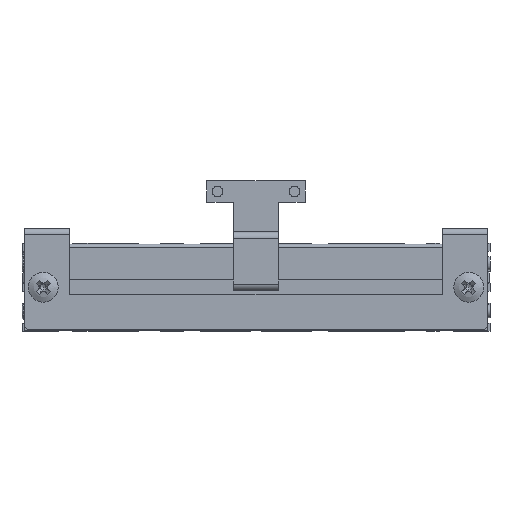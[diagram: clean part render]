
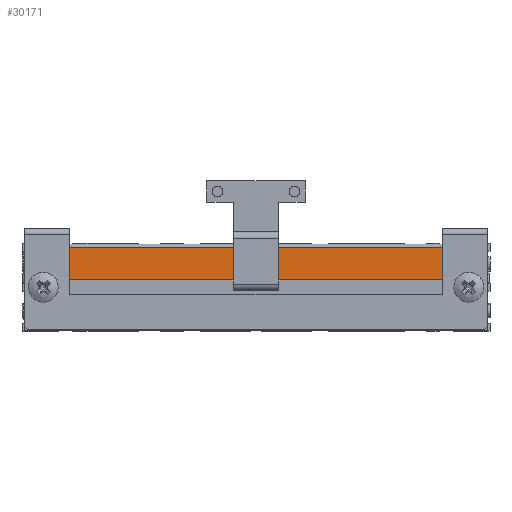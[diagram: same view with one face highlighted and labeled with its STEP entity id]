
A CAD part, front view. The second image highlights one B-rep face of the part: STEP entity #30171.
In plain terms, the highlighted planar face has unit normal (0, -1, 0).
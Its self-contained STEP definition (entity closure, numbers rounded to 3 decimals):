
#6949 = CYLINDRICAL_SURFACE('',#6950,0.6);
#6950 = AXIS2_PLACEMENT_3D('',#6951,#6952,#6953);
#6951 = CARTESIAN_POINT('',(-43.,-2.9,-3.5));
#6952 = DIRECTION('',(1.,0.,0.));
#6953 = DIRECTION('',(0.,-1.,0.));
#21357 = VERTEX_POINT('',#21358);
#21358 = CARTESIAN_POINT('',(35.,-3.5,-3.5));
#21378 = EDGE_CURVE('',#21357,#21379,#21381,.T.);
#21379 = VERTEX_POINT('',#21380);
#21380 = CARTESIAN_POINT('',(-35.,-3.5,-3.5));
#21381 = SURFACE_CURVE('',#21382,(#21386,#21392),.PCURVE_S1.);
#21382 = LINE('',#21383,#21384);
#21383 = CARTESIAN_POINT('',(43.,-3.5,-3.5));
#21384 = VECTOR('',#21385,1.);
#21385 = DIRECTION('',(-1.,0.,0.));
#21386 = PCURVE('',#6949,#21387);
#21387 = DEFINITIONAL_REPRESENTATION('',(#21388),#21391);
#21388 = B_SPLINE_CURVE_WITH_KNOTS('',1,(#21389,#21390),.UNSPECIFIED.,
  .F.,.F.,(2,2),(0.,86.),.PIECEWISE_BEZIER_KNOTS.);
#21389 = CARTESIAN_POINT('',(0.,86.));
#21390 = CARTESIAN_POINT('',(0.,0.));
#21391 = ( GEOMETRIC_REPRESENTATION_CONTEXT(2) 
PARAMETRIC_REPRESENTATION_CONTEXT() REPRESENTATION_CONTEXT('2D SPACE',''
  ) );
#21392 = PCURVE('',#21393,#21398);
#21393 = PLANE('',#21394);
#21394 = AXIS2_PLACEMENT_3D('',#21395,#21396,#21397);
#21395 = CARTESIAN_POINT('',(0.,-3.5,-11.));
#21396 = DIRECTION('',(-0.,-1.,0.));
#21397 = DIRECTION('',(0.,0.,-1.));
#21398 = DEFINITIONAL_REPRESENTATION('',(#21399),#21403);
#21399 = LINE('',#21400,#21401);
#21400 = CARTESIAN_POINT('',(-7.5,43.));
#21401 = VECTOR('',#21402,1.);
#21402 = DIRECTION('',(0.,-1.));
#21403 = ( GEOMETRIC_REPRESENTATION_CONTEXT(2) 
PARAMETRIC_REPRESENTATION_CONTEXT() REPRESENTATION_CONTEXT('2D SPACE',''
  ) );
#29735 = PLANE('',#29736);
#29736 = AXIS2_PLACEMENT_3D('',#29737,#29738,#29739);
#29737 = CARTESIAN_POINT('',(35.,-13.,-12.35));
#29738 = DIRECTION('',(1.,0.,0.));
#29739 = DIRECTION('',(0.,0.,1.));
#29785 = PLANE('',#29786);
#29786 = AXIS2_PLACEMENT_3D('',#29787,#29788,#29789);
#29787 = CARTESIAN_POINT('',(-35.,-13.,-12.35));
#29788 = DIRECTION('',(1.,0.,0.));
#29789 = DIRECTION('',(0.,0.,1.));
#30171 = ADVANCED_FACE('',(#30172),#21393,.T.);
#30172 = FACE_BOUND('',#30173,.T.);
#30173 = EDGE_LOOP('',(#30174,#30175,#30197,#30223));
#30174 = ORIENTED_EDGE('',*,*,#21378,.T.);
#30175 = ORIENTED_EDGE('',*,*,#30176,.F.);
#30176 = EDGE_CURVE('',#30177,#21379,#30179,.T.);
#30177 = VERTEX_POINT('',#30178);
#30178 = CARTESIAN_POINT('',(-35.,-3.5,-9.5));
#30179 = SURFACE_CURVE('',#30180,(#30184,#30191),.PCURVE_S1.);
#30180 = LINE('',#30181,#30182);
#30181 = CARTESIAN_POINT('',(-35.,-3.5,-11.175));
#30182 = VECTOR('',#30183,1.);
#30183 = DIRECTION('',(0.,0.,1.));
#30184 = PCURVE('',#21393,#30185);
#30185 = DEFINITIONAL_REPRESENTATION('',(#30186),#30190);
#30186 = LINE('',#30187,#30188);
#30187 = CARTESIAN_POINT('',(0.175,-35.));
#30188 = VECTOR('',#30189,1.);
#30189 = DIRECTION('',(-1.,0.));
#30190 = ( GEOMETRIC_REPRESENTATION_CONTEXT(2) 
PARAMETRIC_REPRESENTATION_CONTEXT() REPRESENTATION_CONTEXT('2D SPACE',''
  ) );
#30191 = PCURVE('',#29785,#30192);
#30192 = DEFINITIONAL_REPRESENTATION('',(#30193),#30196);
#30193 = B_SPLINE_CURVE_WITH_KNOTS('',1,(#30194,#30195),.UNSPECIFIED.,
  .F.,.F.,(2,2),(-1.175,10.175),
  .PIECEWISE_BEZIER_KNOTS.);
#30194 = CARTESIAN_POINT('',(0.,-9.5));
#30195 = CARTESIAN_POINT('',(11.35,-9.5));
#30196 = ( GEOMETRIC_REPRESENTATION_CONTEXT(2) 
PARAMETRIC_REPRESENTATION_CONTEXT() REPRESENTATION_CONTEXT('2D SPACE',''
  ) );
#30197 = ORIENTED_EDGE('',*,*,#30198,.F.);
#30198 = EDGE_CURVE('',#30199,#30177,#30201,.T.);
#30199 = VERTEX_POINT('',#30200);
#30200 = CARTESIAN_POINT('',(35.,-3.5,-9.5));
#30201 = SURFACE_CURVE('',#30202,(#30206,#30212),.PCURVE_S1.);
#30202 = LINE('',#30203,#30204);
#30203 = CARTESIAN_POINT('',(-18.,-3.5,-9.5));
#30204 = VECTOR('',#30205,1.);
#30205 = DIRECTION('',(-1.,0.,0.));
#30206 = PCURVE('',#21393,#30207);
#30207 = DEFINITIONAL_REPRESENTATION('',(#30208),#30211);
#30208 = B_SPLINE_CURVE_WITH_KNOTS('',1,(#30209,#30210),.UNSPECIFIED.,
  .F.,.F.,(2,2),(-54.,18.),.PIECEWISE_BEZIER_KNOTS.);
#30209 = CARTESIAN_POINT('',(-1.5,36.));
#30210 = CARTESIAN_POINT('',(-1.5,-36.));
#30211 = ( GEOMETRIC_REPRESENTATION_CONTEXT(2) 
PARAMETRIC_REPRESENTATION_CONTEXT() REPRESENTATION_CONTEXT('2D SPACE',''
  ) );
#30212 = PCURVE('',#30213,#30218);
#30213 = PLANE('',#30214);
#30214 = AXIS2_PLACEMENT_3D('',#30215,#30216,#30217);
#30215 = CARTESIAN_POINT('',(-36.,-2.5,-9.5));
#30216 = DIRECTION('',(0.,0.,1.));
#30217 = DIRECTION('',(0.,-1.,0.));
#30218 = DEFINITIONAL_REPRESENTATION('',(#30219),#30222);
#30219 = B_SPLINE_CURVE_WITH_KNOTS('',1,(#30220,#30221),.UNSPECIFIED.,
  .F.,.F.,(2,2),(-54.,18.),.PIECEWISE_BEZIER_KNOTS.);
#30220 = CARTESIAN_POINT('',(1.,72.));
#30221 = CARTESIAN_POINT('',(1.,0.));
#30222 = ( GEOMETRIC_REPRESENTATION_CONTEXT(2) 
PARAMETRIC_REPRESENTATION_CONTEXT() REPRESENTATION_CONTEXT('2D SPACE',''
  ) );
#30223 = ORIENTED_EDGE('',*,*,#30224,.T.);
#30224 = EDGE_CURVE('',#30199,#21357,#30225,.T.);
#30225 = SURFACE_CURVE('',#30226,(#30230,#30237),.PCURVE_S1.);
#30226 = LINE('',#30227,#30228);
#30227 = CARTESIAN_POINT('',(35.,-3.5,-11.175));
#30228 = VECTOR('',#30229,1.);
#30229 = DIRECTION('',(0.,0.,1.));
#30230 = PCURVE('',#21393,#30231);
#30231 = DEFINITIONAL_REPRESENTATION('',(#30232),#30236);
#30232 = LINE('',#30233,#30234);
#30233 = CARTESIAN_POINT('',(0.175,35.));
#30234 = VECTOR('',#30235,1.);
#30235 = DIRECTION('',(-1.,0.));
#30236 = ( GEOMETRIC_REPRESENTATION_CONTEXT(2) 
PARAMETRIC_REPRESENTATION_CONTEXT() REPRESENTATION_CONTEXT('2D SPACE',''
  ) );
#30237 = PCURVE('',#29735,#30238);
#30238 = DEFINITIONAL_REPRESENTATION('',(#30239),#30242);
#30239 = B_SPLINE_CURVE_WITH_KNOTS('',1,(#30240,#30241),.UNSPECIFIED.,
  .F.,.F.,(2,2),(-1.175,10.175),
  .PIECEWISE_BEZIER_KNOTS.);
#30240 = CARTESIAN_POINT('',(0.,-9.5));
#30241 = CARTESIAN_POINT('',(11.35,-9.5));
#30242 = ( GEOMETRIC_REPRESENTATION_CONTEXT(2) 
PARAMETRIC_REPRESENTATION_CONTEXT() REPRESENTATION_CONTEXT('2D SPACE',''
  ) );
